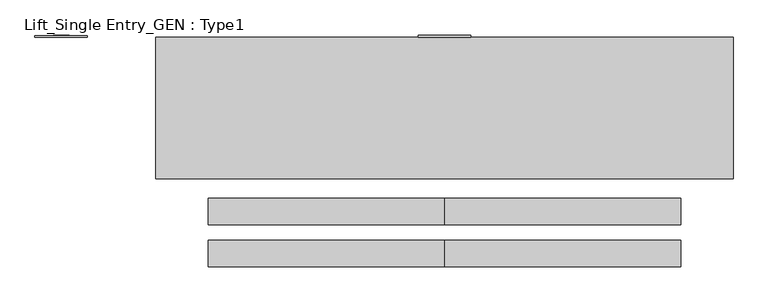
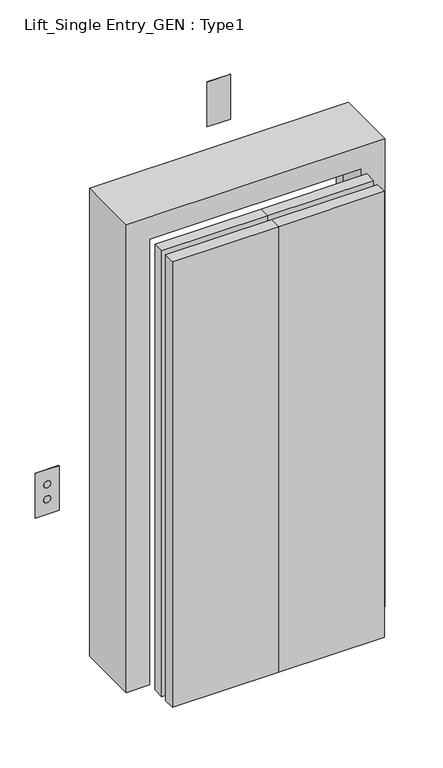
"""IFC4 building model written with IfcOpenShell, lengths in millimetres: proxy geometry, Lift_Single Entry_GEN : Type1."""

from ifc_helpers import new_model, si_unit, point, frame, frame_2d, origin, origin_with_axes, place, context, project, spatial, polyline, circle_curve, trimmed, segment, composite_curve, outline, extrude, faceted_brep, source, transform, mapped, element, save


def lift_single_entry_gen_type1_718a1e9e(model_context):
    return source(origin(), model_context, "Body", "SolidModel", [
        extrude(outline(polyline([(253.9142846, 135.0), (153.9142846, 135.0), (153.9142846, 138.0), (253.9142846, 138.0), (253.9142846, 135.0)])), frame((0.0, 0.0, 2200.0), z_axis=(0.0, 0.0, 1.0), x_axis=(1.0, 0.0, 0.0)), (0.0, 0.0, 1.0), 200.0),
        extrude(outline(composite_curve([segment(trimmed(circle_curve(frame_2d((833.3333333, -526.0857154)), 15.0), [point((833.3333333, -541.0857154))], [point((833.3333333, -511.0857154))], False, "CARTESIAN"), True, "CONTINUOUS"), segment(trimmed(circle_curve(frame_2d((833.3333333, -526.0857154)), 15.0), [point((833.3333333, -511.0857154))], [point((833.3333333, -541.0857154))], False, "CARTESIAN"), True, "CONTINUOUS")], self_intersect=False)), frame((0.0, 135.0, 0.0), z_axis=(0.0, 1.0, 0.0), x_axis=(0.0, 0.0, 1.0)), (0.0, 0.0, 1.0), 4.0),
        extrude(outline(composite_curve([segment(trimmed(circle_curve(frame_2d((766.6666667, -526.0857154)), 15.0), [point((766.6666667, -541.0857154))], [point((766.6666667, -511.0857154))], False, "CARTESIAN"), True, "CONTINUOUS"), segment(trimmed(circle_curve(frame_2d((766.6666667, -526.0857154)), 15.0), [point((766.6666667, -511.0857154))], [point((766.6666667, -541.0857154))], False, "CARTESIAN"), True, "CONTINUOUS")], self_intersect=False)), frame((0.0, 135.0, 0.0), z_axis=(0.0, 1.0, 0.0), x_axis=(0.0, 0.0, 1.0)), (0.0, 0.0, 1.0), 4.0),
        extrude(outline(polyline([(900.0, -576.0857154), (700.0, -576.0857154), (700.0, -476.0857154), (900.0, -476.0857154), (900.0, -576.0857154)]), holes=[composite_curve([segment(trimmed(circle_curve(frame_2d((833.3333333, -526.0857154)), 15.0), [point((833.3333333, -541.0857154))], [point((833.3333333, -511.0857154))], True, "CARTESIAN"), True, "CONTINUOUS"), segment(trimmed(circle_curve(frame_2d((833.3333333, -526.0857154)), 15.0), [point((833.3333333, -511.0857154))], [point((833.3333333, -541.0857154))], True, "CARTESIAN"), True, "CONTINUOUS")], self_intersect=False), composite_curve([segment(trimmed(circle_curve(frame_2d((766.6666667, -526.0857154)), 15.0), [point((766.6666667, -541.0857154))], [point((766.6666667, -511.0857154))], True, "CARTESIAN"), True, "CONTINUOUS"), segment(trimmed(circle_curve(frame_2d((766.6666667, -526.0857154)), 15.0), [point((766.6666667, -511.0857154))], [point((766.6666667, -541.0857154))], True, "CARTESIAN"), True, "CONTINUOUS")], self_intersect=False)]), frame((0.0, 135.0, 0.0), z_axis=(0.0, 1.0, 0.0), x_axis=(0.0, 0.0, 1.0)), (0.0, 0.0, 1.0), 3.0),
        extrude(outline(polyline([(-246.0857154, -252.5), (203.9142846, -252.5), (203.9142846, -302.5), (-246.0857154, -302.5), (-246.0857154, -252.5)])), origin_with_axes(), (0.0, 0.0, 1.0), 2000.0),
        extrude(outline(polyline([(653.9142846, -252.5), (653.9142846, -302.5), (203.9142846, -302.5), (203.9142846, -252.5), (653.9142846, -252.5)])), origin_with_axes(), (0.0, 0.0, 1.0), 2000.0),
        extrude(outline(polyline([(-246.0857154, -172.5), (203.9142846, -172.5), (203.9142846, -222.5), (-246.0857154, -222.5), (-246.0857154, -172.5)])), origin_with_axes(), (0.0, 0.0, 1.0), 2000.0),
        extrude(outline(polyline([(653.9142846, -172.5), (653.9142846, -222.5), (203.9142846, -222.5), (203.9142846, -172.5), (653.9142846, -172.5)])), origin_with_axes(), (0.0, 0.0, 1.0), 2000.0),
        faceted_brep([(-346.0857154, -135.0, 0.0), (-346.0857154, 135.0, 0.0), (-296.0857154, 135.0, 0.0), (-296.0857154, 0.0, 0.0), (-246.0857154, 0.0, 0.0), (-246.0857154, -135.0, 0.0), (-346.0857154, -135.0, 2100.0), (-346.0857154, 135.0, 2100.0), (753.9142846, 135.0, 2100.0), (753.9142846, 135.0, 0.0), (703.9142846, 135.0, 0.0), (703.9142846, 135.0, 2050.0), (-296.0857154, 135.0, 2050.0), (-296.0857154, 0.0, 2050.0), (703.9142846, 0.0, 2050.0), (703.9142846, 0.0, 0.0), (653.9142846, 0.0, 0.0), (653.9142846, 0.0, 2000.0), (-246.0857154, 0.0, 2000.0), (-246.0857154, -135.0, 2000.0), (653.9142846, -135.0, 2000.0), (653.9142846, -135.0, 0.0), (753.9142846, -135.0, 0.0), (753.9142846, -135.0, 2100.0)], [[[0, 1, 2, 3, 4, 5]], [[1, 0, 6, 7]], [[2, 1, 7, 8, 9, 10, 11, 12]], [[3, 2, 12, 13]], [[4, 3, 13, 14, 15, 16, 17, 18]], [[5, 4, 18, 19]], [[0, 5, 19, 20, 21, 22, 23, 6]], [[7, 6, 23, 8]], [[13, 12, 11, 14]], [[19, 18, 17, 20]], [[22, 21, 16, 15, 10, 9]], [[8, 23, 22, 9]], [[14, 11, 10, 15]], [[20, 17, 16, 21]]]),
    ])


if __name__ == "__main__":
    model = new_model("IFC4")
    model_context = context("Model", 3, world=origin())
    ifc_project = project(units=[si_unit("LENGTHUNIT", "METRE", prefix="MILLI")], contexts=[model_context])
    site = spatial("IfcSite", under=ifc_project)
    building = spatial("IfcBuilding", under=site)
    placement = place(None, origin())
    lift_single_entry_gen_type1_shape = lift_single_entry_gen_type1_718a1e9e(model_context)
    element("IfcBuildingElementProxy", 1, Name="Lift_Single Entry_GEN : Type1", ObjectType="Lift_Single Entry_GEN : Type1", at=placement, inside=building, context=model_context, shape_type="MappedRepresentation", body=[
        mapped(lift_single_entry_gen_type1_shape, transform((0.0, 0.0, 0.0), x_axis=(1.0, 0.0, 0.0), y_axis=(0.0, 1.0, 0.0), z_axis=(0.0, 0.0, 1.0))),
    ])
    save(model, "model.ifc")
